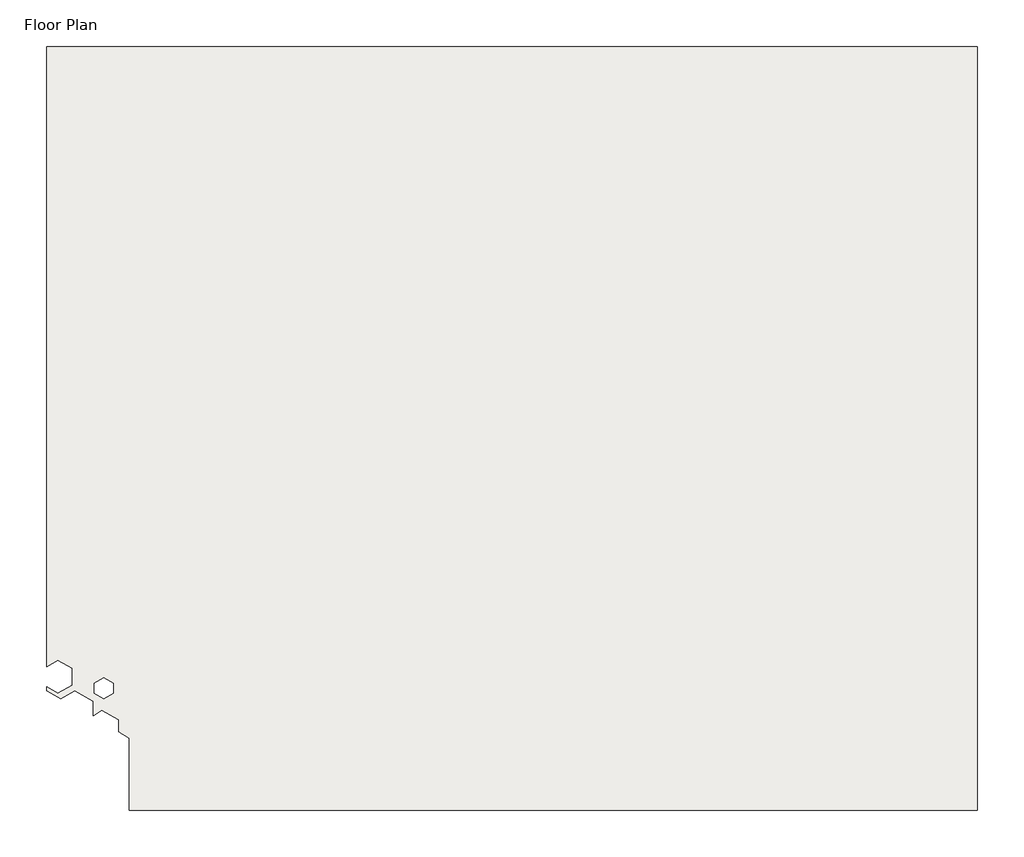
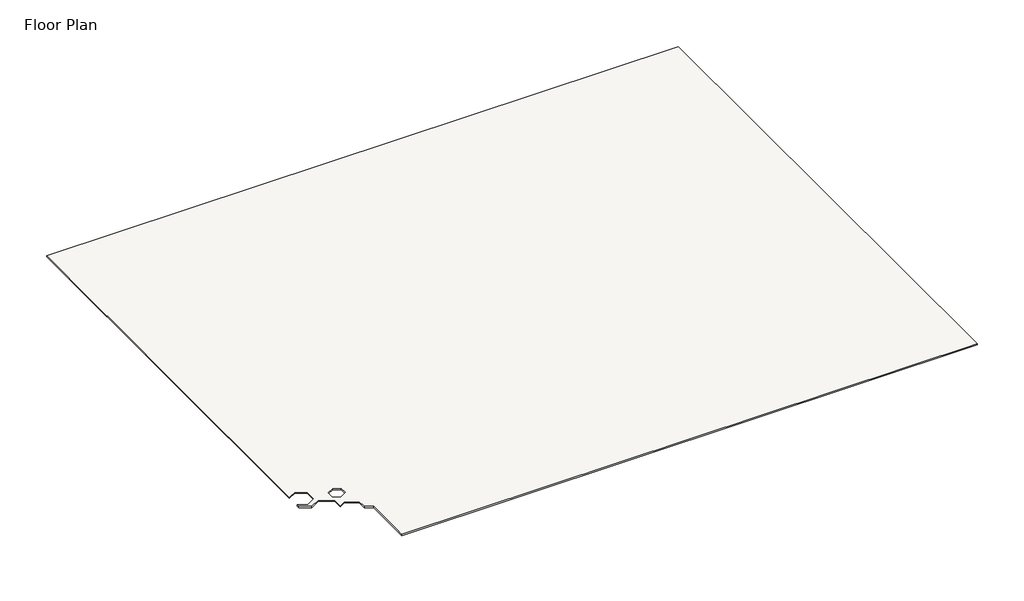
# One storey, incomplete: 1 slab.
"""IFC4 building model written with IfcOpenShell, lengths in millimetres."""

from ifc_helpers import new_model, si_unit, frame, origin, place, context, project, spatial, polyline, outline, extrude, element, save

model = new_model("IFC4")

# Units and contexts
model_context = context("Model", 3, world=origin())
ifc_project = project(units=[si_unit("LENGTHUNIT", "METRE", prefix="MILLI")], contexts=[model_context])

# Site, building, storey
site = spatial("IfcSite", under=ifc_project)
building = spatial("IfcBuilding", under=site)
storey = spatial("IfcBuildingStorey", under=building, Name="Floor Plan", Elevation=0.0)

# Slab
placement = place(None, origin())
element("IfcSlab", 1, ObjectType="Cemintel Ceramic Tile Underlay 6mm x 900mm x 1800mm", at=placement, inside=storey, context=model_context, shape_type="SweptSolid", body=[
    extrude(outline(polyline([(334848.0, 1303.1444811), (334848.0, -1196.8555189), (332070.7891282, -1196.8555189), (332070.7891282, -960.9815933), (332036.148112, -940.9815933), (332036.148112, -901.8707494), (331981.4990878, -870.3191206), (331952.2304478, -887.2173778), (331952.2304478, -840.5791481), (331892.9994433, -806.3821117), (331846.9949178, -832.9428369), (331800.0, -805.8103085), (331800.0, -792.7920671), (331837.0129354, -814.1614953), (331883.3650904, -787.4000661), (331883.3650904, -732.2284328), (331837.0129354, -705.4670036), (331800.0, -726.8364318), (331800.0, 1303.1444811), (334848.0, 1303.1444811)]), holes=[polyline([(332017.9242495, -781.1383062), (331987.1193722, -763.353102), (331956.3144949, -781.1383062), (331956.3144949, -813.746101), (331987.1193722, -831.5313052), (332017.9242495, -813.746101), (332017.9242495, -781.1383062)])]), frame((0.0, 0.0, -6.0), z_axis=(0.0, 0.0, 1.0), x_axis=(1.0, 0.0, 0.0)), (0.0, 0.0, 1.0), 6.0),
])

save(model, "model.ifc")
